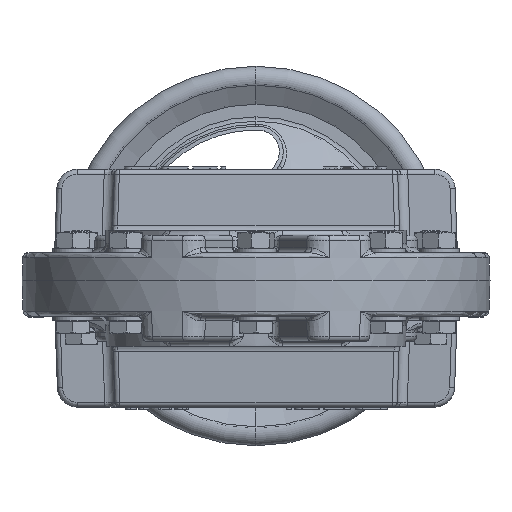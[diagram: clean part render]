
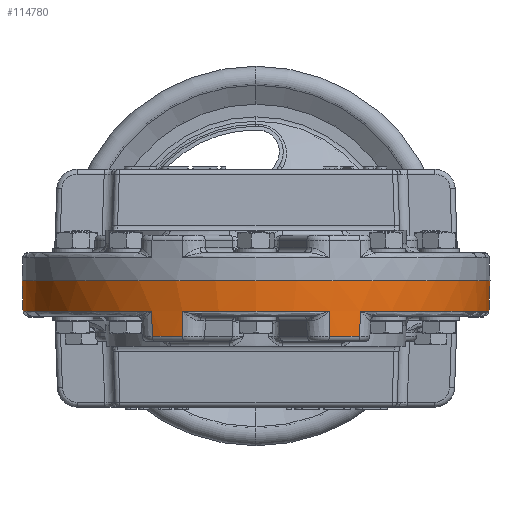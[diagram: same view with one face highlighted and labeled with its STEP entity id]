
A CAD part, front view. The second image highlights one B-rep face of the part: STEP entity #114780.
In plain terms, the highlighted conical face has half-angle 2 degrees and reference radius 92.5 mm.
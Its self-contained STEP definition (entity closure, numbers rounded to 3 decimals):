
#1276 = DIRECTION ( 'NONE',  ( -0.011, -0.033, 0.999 ) ) ;
#1611 = CARTESIAN_POINT ( 'NONE',  ( 0., 0., -22.07 ) ) ;
#4384 = EDGE_LOOP ( 'NONE', ( #97272, #14431, #97389, #48232, #107334, #111716, #4924, #111833, #86544, #76801, #66994, #113443 ) ) ;
#4924 = ORIENTED_EDGE ( 'NONE', *, *, #60248, .T. ) ;
#5252 = CARTESIAN_POINT ( 'NONE',  ( 0., 0., -22.07 ) ) ;
#5440 = DIRECTION ( 'NONE',  ( -1., 0., 0. ) ) ;
#5986 = EDGE_CURVE ( 'NONE', #25498, #19869, #113367, .T. ) ;
#6553 = DIRECTION ( 'NONE',  ( 0., 0., 1. ) ) ;
#6954 = AXIS2_PLACEMENT_3D ( 'NONE', #70929, #17036, #79943 ) ;
#9057 = CARTESIAN_POINT ( 'NONE',  ( 41.188, -82.353, -12.07 ) ) ;
#10625 = DIRECTION ( 'NONE',  ( 1., 0., 0. ) ) ;
#12036 = EDGE_CURVE ( 'NONE', #80424, #19869, #109180, .T. ) ;
#12835 = FACE_OUTER_BOUND ( 'NONE', #4384, .T. ) ;
#13381 = AXIS2_PLACEMENT_3D ( 'NONE', #112775, #77015, #5440 ) ;
#14281 = DIRECTION ( 'NONE',  ( 1., 0., 0. ) ) ;
#14431 = ORIENTED_EDGE ( 'NONE', *, *, #25605, .T. ) ;
#14462 = CARTESIAN_POINT ( 'NONE',  ( -28.997, -87.025, -22.07 ) ) ;
#17036 = DIRECTION ( 'NONE',  ( 0., 0., 1. ) ) ;
#19869 = VERTEX_POINT ( 'NONE', #57879 ) ;
#20299 = EDGE_CURVE ( 'NONE', #25498, #111106, #102293, .T. ) ;
#20791 = DIRECTION ( 'NONE',  ( 0., 0., 1. ) ) ;
#21117 = AXIS2_PLACEMENT_3D ( 'NONE', #106908, #53029, #115947 ) ;
#25498 = VERTEX_POINT ( 'NONE', #111026 ) ;
#25605 = EDGE_CURVE ( 'NONE', #87151, #81569, #84041, .T. ) ;
#26178 = CARTESIAN_POINT ( 'NONE',  ( -92.5, 0., 0. ) ) ;
#28759 = CARTESIAN_POINT ( 'NONE',  ( 92.5, 0., 0. ) ) ;
#28950 = CARTESIAN_POINT ( 'NONE',  ( -92.5, 0., 0. ) ) ;
#31623 = CARTESIAN_POINT ( 'NONE',  ( 92.5, 0., 0. ) ) ;
#33888 = EDGE_CURVE ( 'NONE', #66150, #43728, #113844, .T. ) ;
#35237 = DIRECTION ( 'NONE',  ( -0.035, 0., 0.999 ) ) ;
#37756 = CARTESIAN_POINT ( 'NONE',  ( -29.241, -87.757, 0. ) ) ;
#38978 = CARTESIAN_POINT ( 'NONE',  ( 92.079, 0., -12.07 ) ) ;
#39050 = LINE ( 'NONE', #95059, #84063 ) ;
#43728 = VERTEX_POINT ( 'NONE', #94036 ) ;
#47834 = VERTEX_POINT ( 'NONE', #62444 ) ;
#48052 = VERTEX_POINT ( 'NONE', #28950 ) ;
#48232 = ORIENTED_EDGE ( 'NONE', *, *, #88060, .F. ) ;
#48542 = VECTOR ( 'NONE', #35237, 1000. ) ;
#49339 = CONICAL_SURFACE ( 'NONE', #13381, 92.5, 0.035 ) ;
#50745 = VERTEX_POINT ( 'NONE', #14462 ) ;
#53029 = DIRECTION ( 'NONE',  ( 0., 0., -1. ) ) ;
#54173 = EDGE_CURVE ( 'NONE', #50745, #80424, #105523, .T. ) ;
#56224 = CARTESIAN_POINT ( 'NONE',  ( 41.377, -82.73, 0. ) ) ;
#57311 = VECTOR ( 'NONE', #67440, 1000. ) ;
#57879 = CARTESIAN_POINT ( 'NONE',  ( 29.108, -87.357, -12.07 ) ) ;
#60248 = EDGE_CURVE ( 'NONE', #47834, #50745, #80351, .T. ) ;
#60420 = CARTESIAN_POINT ( 'NONE',  ( 0., 0., -12.07 ) ) ;
#60942 = CARTESIAN_POINT ( 'NONE',  ( 29.241, -87.757, 0. ) ) ;
#61964 = CARTESIAN_POINT ( 'NONE',  ( 41.032, -82.04, -22.07 ) ) ;
#62444 = CARTESIAN_POINT ( 'NONE',  ( -41.032, -82.04, -22.07 ) ) ;
#62923 = CIRCLE ( 'NONE', #92337, 92.079 ) ;
#63135 = CARTESIAN_POINT ( 'NONE',  ( -92.079, 0., -12.07 ) ) ;
#64480 = DIRECTION ( 'NONE',  ( 0., 0., 1. ) ) ;
#64650 = VERTEX_POINT ( 'NONE', #9057 ) ;
#65561 = VECTOR ( 'NONE', #79024, 1000. ) ;
#66150 = VERTEX_POINT ( 'NONE', #63135 ) ;
#66636 = AXIS2_PLACEMENT_3D ( 'NONE', #5252, #68182, #14281 ) ;
#66994 = ORIENTED_EDGE ( 'NONE', *, *, #20299, .T. ) ;
#67440 = DIRECTION ( 'NONE',  ( 0.035, 0., 0.999 ) ) ;
#67844 = EDGE_CURVE ( 'NONE', #64650, #87151, #62923, .T. ) ;
#68182 = DIRECTION ( 'NONE',  ( 0., 0., 1. ) ) ;
#69497 = DIRECTION ( 'NONE',  ( 1., 0., 0. ) ) ;
#70929 = CARTESIAN_POINT ( 'NONE',  ( 0., 0., -12.07 ) ) ;
#73969 = DIRECTION ( 'NONE',  ( 0.016, -0.031, 0.999 ) ) ;
#74644 = CARTESIAN_POINT ( 'NONE',  ( 0., 0., -12.07 ) ) ;
#75306 = LINE ( 'NONE', #26178, #48542 ) ;
#76801 = ORIENTED_EDGE ( 'NONE', *, *, #5986, .F. ) ;
#77015 = DIRECTION ( 'NONE',  ( 0., 0., 1. ) ) ;
#79024 = DIRECTION ( 'NONE',  ( 0.011, -0.033, 0.999 ) ) ;
#79081 = CARTESIAN_POINT ( 'NONE',  ( -29.108, -87.357, -12.07 ) ) ;
#79943 = DIRECTION ( 'NONE',  ( 1., 0., 0. ) ) ;
#80351 = CIRCLE ( 'NONE', #66636, 91.729 ) ;
#80424 = VERTEX_POINT ( 'NONE', #79081 ) ;
#81569 = VERTEX_POINT ( 'NONE', #28759 ) ;
#83659 = DIRECTION ( 'NONE',  ( 1., 0., 0. ) ) ;
#84041 = LINE ( 'NONE', #31623, #57311 ) ;
#84063 = VECTOR ( 'NONE', #104137, 1000. ) ;
#84691 = AXIS2_PLACEMENT_3D ( 'NONE', #1611, #64480, #10625 ) ;
#86544 = ORIENTED_EDGE ( 'NONE', *, *, #12036, .T. ) ;
#87151 = VERTEX_POINT ( 'NONE', #38978 ) ;
#88060 = EDGE_CURVE ( 'NONE', #66150, #48052, #75306, .T. ) ;
#88728 = EDGE_CURVE ( 'NONE', #111106, #64650, #112992, .T. ) ;
#89576 = CIRCLE ( 'NONE', #21117, 92.5 ) ;
#92337 = AXIS2_PLACEMENT_3D ( 'NONE', #74644, #20791, #83659 ) ;
#94036 = CARTESIAN_POINT ( 'NONE',  ( -41.188, -82.353, -12.07 ) ) ;
#94078 = EDGE_CURVE ( 'NONE', #81569, #48052, #89576, .T. ) ;
#95059 = CARTESIAN_POINT ( 'NONE',  ( -41.377, -82.73, 0. ) ) ;
#97272 = ORIENTED_EDGE ( 'NONE', *, *, #67844, .T. ) ;
#97389 = ORIENTED_EDGE ( 'NONE', *, *, #94078, .T. ) ;
#102293 = CIRCLE ( 'NONE', #84691, 91.729 ) ;
#102375 = EDGE_CURVE ( 'NONE', #47834, #43728, #39050, .T. ) ;
#102673 = VECTOR ( 'NONE', #1276, 1000. ) ;
#104137 = DIRECTION ( 'NONE',  ( -0.016, -0.031, 0.999 ) ) ;
#105523 = LINE ( 'NONE', #37756, #102673 ) ;
#106908 = CARTESIAN_POINT ( 'NONE',  ( 0., 0., 0. ) ) ;
#107334 = ORIENTED_EDGE ( 'NONE', *, *, #33888, .T. ) ;
#109180 = CIRCLE ( 'NONE', #115248, 92.079 ) ;
#110134 = VECTOR ( 'NONE', #73969, 1000. ) ;
#111026 = CARTESIAN_POINT ( 'NONE',  ( 28.997, -87.025, -22.07 ) ) ;
#111106 = VERTEX_POINT ( 'NONE', #61964 ) ;
#111716 = ORIENTED_EDGE ( 'NONE', *, *, #102375, .F. ) ;
#111833 = ORIENTED_EDGE ( 'NONE', *, *, #54173, .T. ) ;
#112775 = CARTESIAN_POINT ( 'NONE',  ( 0., 0., 0. ) ) ;
#112992 = LINE ( 'NONE', #56224, #110134 ) ;
#113367 = LINE ( 'NONE', #60942, #65561 ) ;
#113443 = ORIENTED_EDGE ( 'NONE', *, *, #88728, .T. ) ;
#113844 = CIRCLE ( 'NONE', #6954, 92.079 ) ;
#114780 = ADVANCED_FACE ( 'NONE', ( #12835 ), #49339, .T. ) ;
#115248 = AXIS2_PLACEMENT_3D ( 'NONE', #60420, #6553, #69497 ) ;
#115947 = DIRECTION ( 'NONE',  ( -1., 0., 0. ) ) ;
